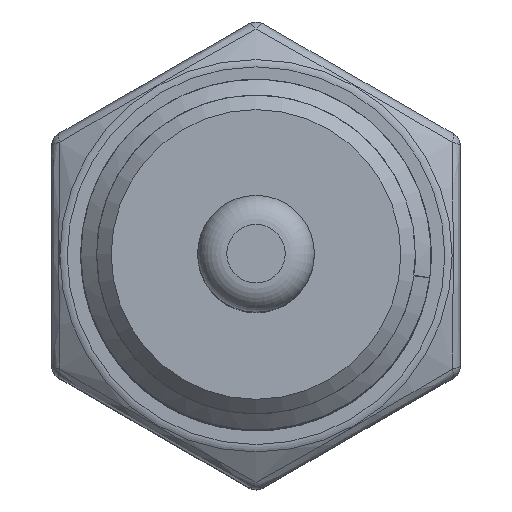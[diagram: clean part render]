
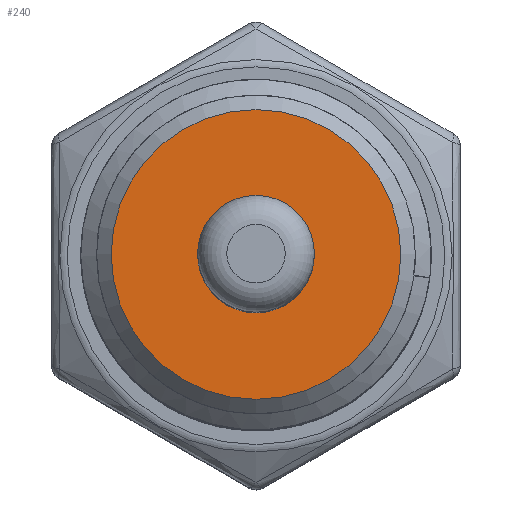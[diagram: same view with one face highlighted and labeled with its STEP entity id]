
A CAD part, top view. The second image highlights one B-rep face of the part: STEP entity #240.
In plain terms, the highlighted planar face has unit normal (0, 0, 1).
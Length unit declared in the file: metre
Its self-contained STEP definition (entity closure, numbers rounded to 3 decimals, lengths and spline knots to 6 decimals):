
#240=ADVANCED_FACE('',(#472),#473,.T.);
#472=FACE_OUTER_BOUND('',#7215,.T.);
#473=PLANE('',#7216);
#7215=EDGE_LOOP('',(#7804));
#7216=AXIS2_PLACEMENT_3D('',#7805,#7806,#7807);
#7804=ORIENTED_EDGE('',*,*,#7999,.T.);
#7805=CARTESIAN_POINT('',(0.,0.,0.0626));
#7806=DIRECTION('',(0.0,0.0,1.0));
#7807=DIRECTION('',(1.0,0.0,0.0));
#7999=EDGE_CURVE('',#8275,#8275,#8276,.T.);
#8275=VERTEX_POINT('',#11905);
#8276=CIRCLE('',#11906,0.004959);
#11905=CARTESIAN_POINT('',(0.004959,0.,0.0626));
#11906=AXIS2_PLACEMENT_3D('',#12218,#12219,#12220);
#12218=CARTESIAN_POINT('',(0.,0.,0.0626));
#12219=DIRECTION('',(0.0,0.0,1.0));
#12220=DIRECTION('',(1.0,0.0,0.0));
